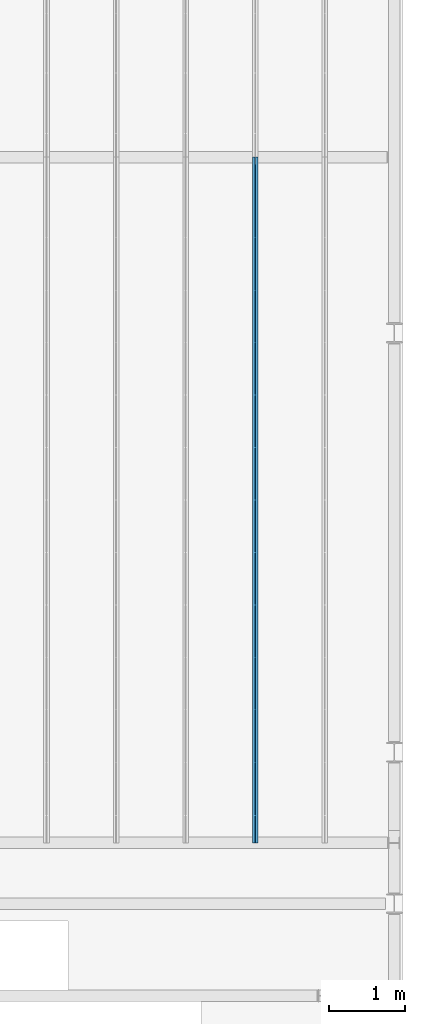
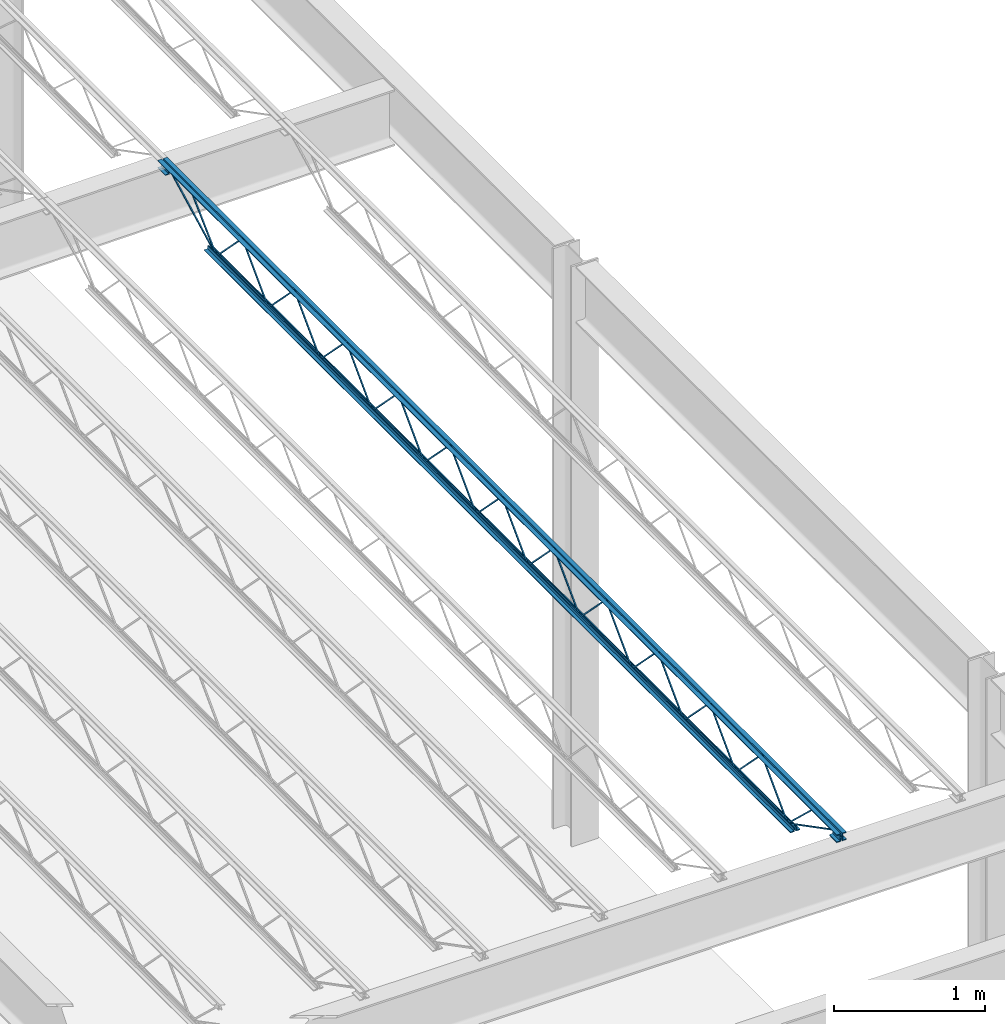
# One storey, part 73 of 119: 1 beam.
"""IFC2X3 building model written with IfcOpenShell, lengths in metres."""

from ifc_helpers import new_model, entity, si_unit, converted_unit, frame, origin, place, context, project, spatial, face_set, surface_model, element, save


model = new_model("IFC2X3")

# Units and contexts
model_context = context("Model", 3, precision=1e-09, world=origin())
plan_context = context("Plan", 3, precision=1e-09, world=origin())
ifc_project = project(units=[si_unit("LENGTHUNIT", "METRE"), si_unit("AREAUNIT", "SQUARE_METRE"), si_unit("VOLUMEUNIT", "CUBIC_METRE"), converted_unit("PLANEANGLEUNIT", "DEGREE", entity("IfcRatioMeasure", 0.01745329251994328), si_unit("PLANEANGLEUNIT", "RADIAN"), dimensions=[0, 0, 0, 0, 0, 0, 0]), si_unit("TIMEUNIT", "SECOND")], contexts=[model_context, plan_context])

# Site, building, storey
site_placement = place(None, origin())
site = spatial("IfcSite", under=ifc_project, at=site_placement, Name="Default", CompositionType="ELEMENT")
building_placement = place(site_placement, origin())
building = spatial("IfcBuilding", under=site, at=building_placement, CompositionType="ELEMENT")
storey_placement = place(building_placement, frame((0.0, 0.0, 4.570000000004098)))
storey = spatial("IfcBuildingStorey", under=building, at=storey_placement, Name="Second Floor", CompositionType="ELEMENT", Elevation=4.570000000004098)

# Beam
beam_placement = place(storey_placement, frame((-1.856750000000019, 35.80499999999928, 4.323999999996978)))
element("IfcBeam", 1, at=beam_placement, inside=storey, Name="M_K-Series Bar Joist-Rod Web:14K1:14K1", ObjectType="M_K-Series Bar Joist-Rod Web:14K1", context=model_context, shape_type="SurfaceModel", body=[
    surface_model("IfcFaceBasedSurfaceModel", [(0.04150000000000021, 6.89009090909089, 0.01110000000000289), (0.0320000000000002, 6.89009090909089, 0.01110000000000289), (0.0320000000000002, 6.89009090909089, 0.001600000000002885), (0.04150000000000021, 6.89009090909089, 0.001600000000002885), (0.0320000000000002, 6.891272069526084, 0.01110000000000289), (0.04150000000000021, 6.891272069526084, 0.01110000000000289), (0.0320000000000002, 6.895259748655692, 0.001600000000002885), (0.03200000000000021, 7.232137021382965, 0.3449000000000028), (0.03200000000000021, 7.234499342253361, 0.3449000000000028), (0.03200000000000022, 7.57137661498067, 0.001600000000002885), (0.03200000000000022, 7.576545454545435, 0.001600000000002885), (0.03200000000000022, 7.576545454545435, 0.01110000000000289), (0.03200000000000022, 7.575364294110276, 0.01110000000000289), (0.0320000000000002, 7.238487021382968, 0.3544000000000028), (0.03200000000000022, 7.228149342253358, 0.3544000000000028), (0.0415000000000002, 6.895259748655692, 0.001600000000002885), (0.04150000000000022, 7.232137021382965, 0.3449000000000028), (0.04150000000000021, 7.234499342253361, 0.3449000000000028), (0.04149999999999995, 7.57137661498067, 0.001600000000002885), (0.04149999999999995, 7.576545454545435, 0.001600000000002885), (0.04150000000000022, 7.576545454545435, 0.01110000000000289), (0.04150000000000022, 7.575364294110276, 0.01110000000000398), (0.04150000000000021, 7.238487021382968, 0.3544000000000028), (0.04150000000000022, 7.228149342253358, 0.3544000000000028), (0.0415000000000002, 6.203636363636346, 0.01110000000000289), (0.0320000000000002, 6.203636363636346, 0.01110000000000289), (0.0320000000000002, 6.203636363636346, 0.001600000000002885), (0.0415000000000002, 6.203636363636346, 0.001600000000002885), (0.0320000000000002, 6.20481752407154, 0.01110000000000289), (0.0415000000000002, 6.20481752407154, 0.01110000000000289), (0.0320000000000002, 6.208805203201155, 0.001600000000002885), (0.0320000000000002, 6.545682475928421, 0.3449000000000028), (0.0320000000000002, 6.548044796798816, 0.3449000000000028), (0.03200000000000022, 6.884922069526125, 0.001600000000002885), (0.03200000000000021, 6.888909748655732, 0.01110000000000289), (0.0320000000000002, 6.552032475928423, 0.3544000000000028), (0.03200000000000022, 6.541694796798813, 0.3544000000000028), (0.0415000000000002, 6.208805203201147, 0.001600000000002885), (0.04150000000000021, 6.545682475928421, 0.3449000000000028), (0.04150000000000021, 6.548044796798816, 0.3449000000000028), (0.04149999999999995, 6.884922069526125, 0.001600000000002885), (0.04149999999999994, 6.89009090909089, 0.001600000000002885), (0.04150000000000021, 6.888909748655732, 0.01110000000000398), (0.0415000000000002, 6.552032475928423, 0.3544000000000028), (0.04150000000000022, 6.541694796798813, 0.3544000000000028), (0.0415000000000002, 5.517181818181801, 0.01110000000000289), (0.0320000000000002, 5.517181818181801, 0.01110000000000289), (0.0320000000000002, 5.517181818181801, 0.001600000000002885), (0.0415000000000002, 5.517181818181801, 0.001600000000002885), (0.0320000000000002, 5.518362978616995, 0.01110000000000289), (0.0415000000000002, 5.518362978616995, 0.01110000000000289), (0.03200000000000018, 5.52235065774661, 0.001600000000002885), (0.0320000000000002, 5.859227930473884, 0.3449000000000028), (0.0320000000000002, 5.861590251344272, 0.3449000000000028), (0.03200000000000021, 6.198467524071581, 0.001600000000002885), (0.0320000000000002, 6.202455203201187, 0.01110000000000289), (0.03200000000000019, 5.865577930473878, 0.3544000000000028), (0.0320000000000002, 5.855240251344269, 0.3544000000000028), (0.0415000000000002, 5.522350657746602, 0.001600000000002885), (0.0415000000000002, 5.859227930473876, 0.3449000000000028), (0.0415000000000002, 5.861590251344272, 0.3449000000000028), (0.04149999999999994, 6.198467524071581, 0.001600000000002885), (0.04149999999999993, 6.203636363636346, 0.001600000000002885), (0.04150000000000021, 6.202455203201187, 0.01110000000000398), (0.0415000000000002, 5.865577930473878, 0.3544000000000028), (0.04150000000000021, 5.855240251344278, 0.3544000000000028), (0.0415000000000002, 4.830727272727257, 0.01110000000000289), (0.03200000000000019, 4.830727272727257, 0.01110000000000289), (0.03200000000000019, 4.830727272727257, 0.001600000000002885), (0.0415000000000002, 4.830727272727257, 0.001600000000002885), (0.03200000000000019, 4.831908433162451, 0.01110000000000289), (0.0415000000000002, 4.831908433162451, 0.01110000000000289), (0.03200000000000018, 4.835896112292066, 0.001600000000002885), (0.0320000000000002, 5.17277338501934, 0.3449000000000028), (0.03200000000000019, 5.175135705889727, 0.3449000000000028), (0.0320000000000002, 5.512012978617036, 0.001600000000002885), (0.0320000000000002, 5.51718181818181, 0.001600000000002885), (0.0320000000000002, 5.516000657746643, 0.01110000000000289), (0.03200000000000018, 5.179123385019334, 0.3544000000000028), (0.0320000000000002, 5.168785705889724, 0.3544000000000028), (0.04150000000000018, 4.835896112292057, 0.001600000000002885), (0.0415000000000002, 5.172773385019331, 0.3449000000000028), (0.0415000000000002, 5.175135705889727, 0.3449000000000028), (0.04149999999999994, 5.512012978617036, 0.001600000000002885), (0.04149999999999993, 5.517181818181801, 0.001600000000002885), (0.0415000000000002, 5.51718181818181, 0.01110000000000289), (0.0415000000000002, 5.516000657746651, 0.01110000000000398), (0.04150000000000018, 5.179123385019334, 0.3544000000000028), (0.0415000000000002, 5.168785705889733, 0.3544000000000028), (0.04150000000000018, 4.144272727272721, 0.01110000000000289), (0.03200000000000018, 4.144272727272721, 0.01110000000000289), (0.03200000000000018, 4.144272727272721, 0.001600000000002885), (0.04150000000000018, 4.144272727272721, 0.001600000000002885), (0.03200000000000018, 4.145453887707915, 0.01110000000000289), (0.04150000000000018, 4.145453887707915, 0.01110000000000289), (0.03200000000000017, 4.149441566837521, 0.001600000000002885), (0.03200000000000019, 4.486318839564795, 0.3449000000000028), (0.03200000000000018, 4.488681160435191, 0.3449000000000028), (0.0320000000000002, 4.8255584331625, 0.001600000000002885), (0.03200000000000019, 4.830727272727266, 0.001600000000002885), (0.03200000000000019, 4.830727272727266, 0.01110000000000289), (0.03200000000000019, 4.829546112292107, 0.01110000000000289), (0.03200000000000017, 4.492668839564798, 0.3544000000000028), (0.0320000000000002, 4.482331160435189, 0.3544000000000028), (0.04150000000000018, 4.149441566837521, 0.001600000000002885), (0.0415000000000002, 4.486318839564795, 0.3449000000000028), (0.04150000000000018, 4.488681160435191, 0.3449000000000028), (0.04149999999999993, 4.8255584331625, 0.001600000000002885), (0.04149999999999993, 4.830727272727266, 0.001600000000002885), (0.0415000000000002, 4.830727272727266, 0.01110000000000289), (0.0415000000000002, 4.829546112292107, 0.01110000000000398), (0.04150000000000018, 4.492668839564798, 0.3544000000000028), (0.0415000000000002, 4.482331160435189, 0.3544000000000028), (0.04150000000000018, 3.457818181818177, 0.01110000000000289), (0.03200000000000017, 3.457818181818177, 0.01110000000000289), (0.03200000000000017, 3.457818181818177, 0.001600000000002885), (0.04150000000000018, 3.457818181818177, 0.001600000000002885), (0.03200000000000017, 3.458999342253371, 0.01110000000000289), (0.04150000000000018, 3.458999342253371, 0.01110000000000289), (0.03200000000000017, 3.462987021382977, 0.001600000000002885), (0.03200000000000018, 3.799864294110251, 0.3449000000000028), (0.03200000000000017, 3.802226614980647, 0.3449000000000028), (0.03200000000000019, 4.139103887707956, 0.001600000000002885), (0.03200000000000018, 4.143091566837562, 0.01110000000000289), (0.03200000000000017, 3.806214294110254, 0.3544000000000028), (0.03200000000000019, 3.795876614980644, 0.3544000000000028), (0.04150000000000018, 3.462987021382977, 0.001600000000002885), (0.04150000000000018, 3.799864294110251, 0.3449000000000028), (0.04150000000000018, 3.802226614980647, 0.3449000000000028), (0.04149999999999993, 4.139103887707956, 0.001600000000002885), (0.04149999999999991, 4.144272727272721, 0.001600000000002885), (0.04150000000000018, 4.143091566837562, 0.01110000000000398), (0.04150000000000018, 3.806214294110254, 0.3544000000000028), (0.0415000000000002, 3.795876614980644, 0.3544000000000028), (0.04150000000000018, 2.771363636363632, 0.01110000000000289), (0.03200000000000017, 2.771363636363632, 0.01110000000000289), (0.03200000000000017, 2.771363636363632, 0.001600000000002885), (0.04150000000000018, 2.771363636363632, 0.001600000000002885), (0.03200000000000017, 2.77254479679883, 0.01110000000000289), (0.04150000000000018, 2.77254479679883, 0.01110000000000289), (0.03200000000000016, 2.776532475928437, 0.001600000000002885), (0.03200000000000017, 3.113409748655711, 0.3449000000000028), (0.03200000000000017, 3.115772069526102, 0.3449000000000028), (0.03200000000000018, 3.452649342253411, 0.001600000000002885), (0.03200000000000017, 3.456637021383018, 0.01110000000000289), (0.03200000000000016, 3.119759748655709, 0.3544000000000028), (0.03200000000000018, 3.1094220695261, 0.3544000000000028), (0.04150000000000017, 2.776532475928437, 0.001600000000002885), (0.04150000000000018, 3.113409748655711, 0.3449000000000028), (0.04150000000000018, 3.115772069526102, 0.3449000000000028), (0.04149999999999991, 3.452649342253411, 0.001600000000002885), (0.04149999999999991, 3.457818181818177, 0.001600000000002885), (0.04150000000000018, 3.456637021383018, 0.01110000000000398), (0.04150000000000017, 3.119759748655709, 0.3544000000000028), (0.04150000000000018, 3.1094220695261, 0.3544000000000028), (0.04150000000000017, 2.084909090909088, 0.01110000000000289), (0.03200000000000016, 2.084909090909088, 0.01110000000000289), (0.03200000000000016, 2.084909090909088, 0.001600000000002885), (0.04150000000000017, 2.084909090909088, 0.001600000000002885), (0.03200000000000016, 2.086090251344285, 0.01110000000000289), (0.04150000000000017, 2.086090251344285, 0.01110000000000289), (0.03200000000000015, 2.090077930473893, 0.001600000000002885), (0.03200000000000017, 2.426955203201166, 0.3449000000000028), (0.03200000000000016, 2.429317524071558, 0.3449000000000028), (0.03200000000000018, 2.766194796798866, 0.001600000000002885), (0.03200000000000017, 2.770182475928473, 0.01110000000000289), (0.03200000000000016, 2.433305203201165, 0.3544000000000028), (0.03200000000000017, 2.422967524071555, 0.3544000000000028), (0.04150000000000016, 2.090077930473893, 0.001600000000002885), (0.04150000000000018, 2.426955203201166, 0.3449000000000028), (0.04150000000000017, 2.429317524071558, 0.3449000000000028), (0.04149999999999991, 2.766194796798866, 0.001600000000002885), (0.04149999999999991, 2.771363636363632, 0.001600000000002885), (0.04150000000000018, 2.770182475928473, 0.01110000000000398), (0.04150000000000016, 2.433305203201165, 0.3544000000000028), (0.04150000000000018, 2.422967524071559, 0.3544000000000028), (0.04150000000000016, 1.398454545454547, 0.01110000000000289), (0.03200000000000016, 1.398454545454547, 0.01110000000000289), (0.03200000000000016, 1.398454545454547, 0.001600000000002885), (0.04150000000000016, 1.398454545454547, 0.001600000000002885), (0.03200000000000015, 1.399635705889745, 0.01110000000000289), (0.04150000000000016, 1.399635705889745, 0.01110000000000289), (0.03200000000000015, 1.403623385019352, 0.001600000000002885), (0.03200000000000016, 1.740500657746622, 0.3449000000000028), (0.03200000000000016, 1.742862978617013, 0.3449000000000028), (0.03200000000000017, 2.079740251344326, 0.001600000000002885), (0.03200000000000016, 2.084909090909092, 0.001600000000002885), (0.03200000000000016, 2.084909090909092, 0.01110000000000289), (0.03200000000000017, 2.083727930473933, 0.01110000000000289), (0.03200000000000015, 1.746850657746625, 0.3544000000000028), (0.03200000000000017, 1.736512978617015, 0.3544000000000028), (0.04150000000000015, 1.403623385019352, 0.001600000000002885), (0.04150000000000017, 1.740500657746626, 0.3449000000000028), (0.04150000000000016, 1.742862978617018, 0.3449000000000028), (0.04149999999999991, 2.079740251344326, 0.001600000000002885), (0.0414999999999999, 2.084909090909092, 0.001600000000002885), (0.04150000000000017, 2.084909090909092, 0.01110000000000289), (0.04150000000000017, 2.083727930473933, 0.01110000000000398), (0.04150000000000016, 1.746850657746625, 0.3544000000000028), (0.04150000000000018, 1.736512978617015, 0.3544000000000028), (0.04150000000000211, 7.576545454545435, 0.01109999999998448), (0.03200000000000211, 7.576545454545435, 0.01109999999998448), (0.03200000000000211, 7.576545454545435, 0.001599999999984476), (0.04150000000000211, 7.576545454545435, 0.001599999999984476), (0.0320000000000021, 7.577726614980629, 0.01109999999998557), (0.04150000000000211, 7.577726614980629, 0.01109999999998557), (0.0320000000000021, 7.581714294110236, 0.001599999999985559), (0.03200000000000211, 7.91859156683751, 0.3448999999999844), (0.03200000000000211, 7.920953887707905, 0.3448999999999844), (0.03200000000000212, 8.257831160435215, 0.001599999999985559), (0.03200000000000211, 8.26299999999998, 0.001599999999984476), (0.03200000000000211, 8.26299999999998, 0.01109999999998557), (0.03200000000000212, 8.261818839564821, 0.01109999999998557), (0.0320000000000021, 7.924941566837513, 0.3543999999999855), (0.03200000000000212, 7.914603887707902, 0.3543999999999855), (0.04150000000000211, 7.581714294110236, 0.001599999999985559), (0.04150000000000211, 7.91859156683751, 0.3448999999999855), (0.04150000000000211, 7.920953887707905, 0.3448999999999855), (0.04150000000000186, 8.257831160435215, 0.001599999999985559), (0.04150000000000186, 8.26299999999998, 0.001599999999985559), (0.04150000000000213, 8.26299999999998, 0.01109999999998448), (0.04150000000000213, 8.261818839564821, 0.01109999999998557), (0.04150000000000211, 7.924941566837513, 0.3543999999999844), (0.04150000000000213, 7.914603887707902, 0.3543999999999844), (0.04150000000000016, 0.7120000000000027, 0.01110000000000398), (0.03200000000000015, 0.7120000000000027, 0.01110000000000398), (0.03200000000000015, 0.7120000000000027, 0.001600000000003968), (0.04150000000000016, 0.7120000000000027, 0.001600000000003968), (0.03200000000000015, 0.7131811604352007, 0.01110000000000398), (0.04150000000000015, 0.7131811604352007, 0.01110000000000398), (0.03200000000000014, 0.7171688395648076, 0.001600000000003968), (0.03200000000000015, 1.054046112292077, 0.3449000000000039), (0.03200000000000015, 1.056408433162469, 0.3449000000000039), (0.03200000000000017, 1.393285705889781, 0.001600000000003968), (0.03200000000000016, 1.398454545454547, 0.001600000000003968), (0.03200000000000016, 1.398454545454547, 0.01110000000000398), (0.03200000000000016, 1.397273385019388, 0.01110000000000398), (0.03200000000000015, 1.06039611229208, 0.3544000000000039), (0.03200000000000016, 1.05005843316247, 0.3544000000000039), (0.04150000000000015, 0.7171688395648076, 0.001600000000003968), (0.04150000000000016, 1.054046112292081, 0.3449000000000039), (0.04150000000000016, 1.056408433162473, 0.3449000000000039), (0.0414999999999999, 1.393285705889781, 0.001600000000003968), (0.04149999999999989, 1.398454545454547, 0.001600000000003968), (0.04150000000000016, 1.398454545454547, 0.01110000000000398), (0.04150000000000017, 1.397273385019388, 0.01110000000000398), (0.04150000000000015, 1.06039611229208, 0.3544000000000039), (0.04150000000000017, 1.05005843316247, 0.3544000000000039), (0.03200000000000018, 8.975, 0.3559999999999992), (0.0, 8.975, 0.3559999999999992), (0.0, 8.975, 0.3494999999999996), (0.02550000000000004, 8.975, 0.3494999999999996), (0.02550000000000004, 8.975, 0.3239999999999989), (0.03200000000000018, 8.975, 0.3239999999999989), (0.04149999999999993, 8.975, 0.3559999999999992), (0.04149999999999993, 8.975, 0.3239999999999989), (0.0479999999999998, 8.975, 0.3239999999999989), (0.0479999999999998, 8.975, 0.3494999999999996), (0.07350000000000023, 8.975, 0.3494999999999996), (0.07350000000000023, 8.975, 0.3559999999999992), (0.03200000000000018, 0.0, 0.3559999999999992), (0.0, 0.0, 0.3559999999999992), (0.0, 0.0, 0.3494999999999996), (0.02550000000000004, 0.0, 0.3494999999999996), (0.02550000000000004, 0.0, 0.3239999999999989), (0.03200000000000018, 0.0, 0.3239999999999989), (0.04149999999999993, 0.0, 0.3559999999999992), (0.04149999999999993, 0.0, 0.3239999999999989), (0.0479999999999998, 0.0, 0.3239999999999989), (0.0479999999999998, 0.0, 0.3494999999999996), (0.07350000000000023, 0.0, 0.3494999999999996), (0.07350000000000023, 0.0, 0.3559999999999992), (0.04150000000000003, 0.0999999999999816, 0.2924999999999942), (0.07350000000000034, 0.0999999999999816, 0.2924999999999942), (0.07350000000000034, 0.0999999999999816, 0.2989999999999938), (0.04799999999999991, 0.0999999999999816, 0.2989999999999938), (0.04799999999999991, 0.0999999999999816, 0.3239999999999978), (0.04150000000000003, 0.0999999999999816, 0.3239999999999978), (0.0, 0.0999999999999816, 0.2924999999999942), (0.03200000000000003, 0.0999999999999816, 0.2924999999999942), (0.03200000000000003, 0.0999999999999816, 0.3239999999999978), (0.02550000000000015, 0.0999999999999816, 0.3239999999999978), (0.02550000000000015, 0.0999999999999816, 0.2989999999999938), (0.0, 0.0999999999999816, 0.2989999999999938), (0.04149999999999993, 0.0, 0.2924999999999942), (0.07350000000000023, 0.0, 0.2924999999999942), (0.07350000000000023, 0.0, 0.2989999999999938), (0.0479999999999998, 0.0, 0.2989999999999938), (0.0479999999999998, 0.0, 0.3239999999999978), (0.04149999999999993, 0.0, 0.3239999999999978), (0.0, 0.0, 0.2924999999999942), (0.03199999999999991, 0.0, 0.2924999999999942), (0.03199999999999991, 0.0, 0.3239999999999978), (0.02550000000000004, 0.0, 0.3239999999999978), (0.02550000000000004, 0.0, 0.2989999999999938), (0.0, 0.0, 0.2989999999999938), (0.03199999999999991, 8.975, 0.2924999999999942), (0.03199999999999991, 8.975, 0.3239999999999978), (0.02550000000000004, 8.975, 0.3239999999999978), (0.02550000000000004, 8.975, 0.2989999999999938), (0.0, 8.975, 0.2989999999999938), (0.0, 8.975, 0.2924999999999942), (0.04149999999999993, 8.975, 0.2924999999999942), (0.07350000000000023, 8.975, 0.2924999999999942), (0.07350000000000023, 8.975, 0.2989999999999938), (0.0479999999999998, 8.975, 0.2989999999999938), (0.0479999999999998, 8.975, 0.3239999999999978), (0.04149999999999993, 8.975, 0.3239999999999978), (0.0319999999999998, 8.874999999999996, 0.2924999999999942), (0.0319999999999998, 8.874999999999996, 0.3239999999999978), (0.02549999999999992, 8.874999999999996, 0.3239999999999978), (0.02549999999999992, 8.874999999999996, 0.2989999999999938), (0.0, 8.874999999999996, 0.2989999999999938), (0.0, 8.874999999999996, 0.2924999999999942), (0.0414999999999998, 8.874999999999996, 0.2924999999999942), (0.0735000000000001, 8.874999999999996, 0.2924999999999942), (0.0735000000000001, 8.874999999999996, 0.2989999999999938), (0.04799999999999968, 8.874999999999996, 0.2989999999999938), (0.04799999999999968, 8.874999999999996, 0.3239999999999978), (0.0414999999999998, 8.874999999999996, 0.3239999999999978), (0.03199999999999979, 8.363000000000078, 0.0), (0.03199999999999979, 8.363000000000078, 0.03199999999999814), (0.02549999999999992, 8.363000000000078, 0.03199999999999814), (0.02549999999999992, 8.363000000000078, 0.006499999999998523), (0.0, 8.363000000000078, 0.006499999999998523), (0.0, 8.363000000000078, 0.0), (0.04149999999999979, 8.363000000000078, 0.0), (0.0735000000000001, 8.363000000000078, 0.0), (0.0735000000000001, 8.363000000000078, 0.006499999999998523), (0.04799999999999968, 8.363000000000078, 0.006499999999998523), (0.04799999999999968, 8.363000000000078, 0.03199999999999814), (0.04149999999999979, 8.363000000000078, 0.03199999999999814), (0.03200000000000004, 0.6120000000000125, 0.0), (0.03200000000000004, 0.6120000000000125, 0.03199999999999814), (0.02550000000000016, 0.6120000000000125, 0.03199999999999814), (0.02550000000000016, 0.6120000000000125, 0.006499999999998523), (0.0, 0.6120000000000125, 0.006499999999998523), (0.0, 0.6120000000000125, 0.0), (0.04150000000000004, 0.6120000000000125, 0.0), (0.07350000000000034, 0.6120000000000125, 0.0), (0.07350000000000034, 0.6120000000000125, 0.006499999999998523), (0.04799999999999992, 0.6120000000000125, 0.006499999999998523), (0.04799999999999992, 0.6120000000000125, 0.03199999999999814), (0.04150000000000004, 0.6120000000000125, 0.03199999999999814), (0.04150000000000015, 0.7141882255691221, 0.01056594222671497), (0.03200000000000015, 0.7141882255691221, 0.01056594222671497), (0.03200000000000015, 0.7098117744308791, 0.002134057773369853), (0.04150000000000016, 0.7098117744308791, 0.002134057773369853), (0.04150000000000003, 0.101159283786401, 0.3287499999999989), (0.0415000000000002, 0.0, 0.3287499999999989), (0.0415000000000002, 0.0, 0.3192499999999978), (0.0415000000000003, 0.09884071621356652, 0.3192499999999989), (0.0320000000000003, 0.09884071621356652, 0.3192499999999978), (0.0320000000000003, 0.101159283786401, 0.3287499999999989), (0.03200000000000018, 0.0, 0.3287499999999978), (0.03200000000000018, 0.0, 0.3192499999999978), (0.04150000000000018, 0.3488155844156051, 0.3417000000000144), (0.03200000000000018, 0.3488155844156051, 0.3417000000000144), (0.03200000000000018, 0.3488155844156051, 0.3322000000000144), (0.04150000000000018, 0.3488155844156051, 0.3322000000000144), (0.03200000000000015, 0.3634023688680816, 0.3417000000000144), (0.04150000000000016, 0.3634023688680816, 0.3417000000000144), (0.03200000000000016, 0.3596287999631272, 0.3322000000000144), (0.03200000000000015, 0.7087406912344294, 0.002894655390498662), (0.03200000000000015, 0.7152593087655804, 0.009805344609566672), (0.04150000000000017, 0.3596287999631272, 0.3322000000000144), (0.04150000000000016, 0.7087406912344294, 0.002894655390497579), (0.04150000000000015, 0.7152593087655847, 0.009805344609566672), (0.04150000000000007, 8.877188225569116, 0.3197840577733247), (0.04150000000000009, 8.872811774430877, 0.3282159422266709), (0.03200000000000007, 8.872811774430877, 0.3282159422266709), (0.03200000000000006, 8.877188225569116, 0.3197840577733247), (0.04150000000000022, 8.26518822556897, 0.002134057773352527), (0.04150000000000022, 8.260811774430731, 0.01056594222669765), (0.03200000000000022, 8.260811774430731, 0.01056594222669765), (0.03200000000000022, 8.26518822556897, 0.002134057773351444), (0.0415000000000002, 8.624030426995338, 0.346222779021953), (0.04150000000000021, 8.617452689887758, 0.3530772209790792), (0.0320000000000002, 8.617452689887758, 0.3530772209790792), (0.0320000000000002, 8.624030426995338, 0.346222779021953), (0.04150000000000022, 8.26628886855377, 0.002922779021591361), (0.04150000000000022, 8.25971113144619, 0.009777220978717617), (0.03200000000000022, 8.25971113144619, 0.009777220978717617), (0.03200000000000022, 8.26628886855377, 0.002922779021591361)], [face_set([[[0, 1, 2, 3]], [[1, 4, 5, 0]], [[2, 6, 7, 8, 9, 10, 11, 12, 13, 14, 4, 1]], [[3, 2, 6, 15]], [[0, 3, 15, 16, 17, 18, 19, 20, 21, 22, 23, 5]], [[4, 5, 23, 14]], [[15, 16, 7, 6]], [[14, 13, 22, 23]], [[16, 7, 8, 17]], [[13, 12, 21, 22]], [[17, 8, 9, 18]], [[20, 11, 10, 19]], [[12, 11, 20, 21]], [[18, 9, 10, 19]]]), face_set([[[24, 25, 26, 27]], [[25, 28, 29, 24]], [[26, 30, 31, 32, 33, 2, 1, 34, 35, 36, 28, 25]], [[27, 26, 30, 37]], [[24, 27, 37, 38, 39, 40, 41, 0, 42, 43, 44, 29]], [[28, 29, 44, 36]], [[37, 38, 31, 30]], [[36, 35, 43, 44]], [[38, 31, 32, 39]], [[35, 34, 42, 43]], [[39, 32, 33, 40]], [[0, 1, 2, 41]], [[34, 1, 0, 42]], [[40, 33, 2, 41]]]), face_set([[[45, 46, 47, 48]], [[46, 49, 50, 45]], [[47, 51, 52, 53, 54, 26, 25, 55, 56, 57, 49, 46]], [[48, 47, 51, 58]], [[45, 48, 58, 59, 60, 61, 62, 24, 63, 64, 65, 50]], [[49, 50, 65, 57]], [[58, 59, 52, 51]], [[57, 56, 64, 65]], [[59, 52, 53, 60]], [[56, 55, 63, 64]], [[60, 53, 54, 61]], [[24, 25, 26, 62]], [[55, 25, 24, 63]], [[61, 54, 26, 62]]]), face_set([[[66, 67, 68, 69]], [[67, 70, 71, 66]], [[68, 72, 73, 74, 75, 76, 46, 77, 78, 79, 70, 67]], [[69, 68, 72, 80]], [[66, 69, 80, 81, 82, 83, 84, 85, 86, 87, 88, 71]], [[70, 71, 88, 79]], [[80, 81, 73, 72]], [[79, 78, 87, 88]], [[81, 73, 74, 82]], [[78, 77, 86, 87]], [[82, 74, 75, 83]], [[85, 46, 76, 84]], [[77, 46, 85, 86]], [[83, 75, 76, 84]]]), face_set([[[89, 90, 91, 92]], [[90, 93, 94, 89]], [[91, 95, 96, 97, 98, 99, 100, 101, 102, 103, 93, 90]], [[92, 91, 95, 104]], [[89, 92, 104, 105, 106, 107, 108, 109, 110, 111, 112, 94]], [[93, 94, 112, 103]], [[104, 105, 96, 95]], [[103, 102, 111, 112]], [[105, 96, 97, 106]], [[102, 101, 110, 111]], [[106, 97, 98, 107]], [[109, 100, 99, 108]], [[101, 100, 109, 110]], [[107, 98, 99, 108]]]), face_set([[[113, 114, 115, 116]], [[114, 117, 118, 113]], [[115, 119, 120, 121, 122, 91, 90, 123, 124, 125, 117, 114]], [[116, 115, 119, 126]], [[113, 116, 126, 127, 128, 129, 130, 89, 131, 132, 133, 118]], [[117, 118, 133, 125]], [[126, 127, 120, 119]], [[125, 124, 132, 133]], [[127, 120, 121, 128]], [[124, 123, 131, 132]], [[128, 121, 122, 129]], [[89, 90, 91, 130]], [[123, 90, 89, 131]], [[129, 122, 91, 130]]]), face_set([[[134, 135, 136, 137]], [[135, 138, 139, 134]], [[136, 140, 141, 142, 143, 115, 114, 144, 145, 146, 138, 135]], [[137, 136, 140, 147]], [[134, 137, 147, 148, 149, 150, 151, 113, 152, 153, 154, 139]], [[138, 139, 154, 146]], [[147, 148, 141, 140]], [[146, 145, 153, 154]], [[148, 141, 142, 149]], [[145, 144, 152, 153]], [[149, 142, 143, 150]], [[113, 114, 115, 151]], [[144, 114, 113, 152]], [[150, 143, 115, 151]]]), face_set([[[155, 156, 157, 158]], [[156, 159, 160, 155]], [[157, 161, 162, 163, 164, 136, 135, 165, 166, 167, 159, 156]], [[158, 157, 161, 168]], [[155, 158, 168, 169, 170, 171, 172, 134, 173, 174, 175, 160]], [[159, 160, 175, 167]], [[168, 169, 162, 161]], [[167, 166, 174, 175]], [[169, 162, 163, 170]], [[166, 165, 173, 174]], [[170, 163, 164, 171]], [[134, 135, 136, 172]], [[165, 135, 134, 173]], [[171, 164, 136, 172]]]), face_set([[[176, 177, 178, 179]], [[177, 180, 181, 176]], [[178, 182, 183, 184, 185, 186, 187, 188, 189, 190, 180, 177]], [[179, 178, 182, 191]], [[176, 179, 191, 192, 193, 194, 195, 196, 197, 198, 199, 181]], [[180, 181, 199, 190]], [[191, 192, 183, 182]], [[190, 189, 198, 199]], [[192, 183, 184, 193]], [[189, 188, 197, 198]], [[193, 184, 185, 194]], [[196, 187, 186, 195]], [[188, 187, 196, 197]], [[194, 185, 186, 195]]]), face_set([[[200, 201, 202, 203]], [[201, 204, 205, 200]], [[202, 206, 207, 208, 209, 210, 211, 212, 213, 214, 204, 201]], [[203, 202, 206, 215]], [[200, 203, 215, 216, 217, 218, 219, 220, 221, 222, 223, 205]], [[204, 205, 223, 214]], [[215, 216, 207, 206]], [[214, 213, 222, 223]], [[216, 207, 208, 217]], [[213, 212, 221, 222]], [[217, 208, 209, 218]], [[220, 211, 210, 219]], [[212, 211, 220, 221]], [[218, 209, 210, 219]]]), face_set([[[224, 225, 226, 227]], [[225, 228, 229, 224]], [[226, 230, 231, 232, 233, 234, 235, 236, 237, 238, 228, 225]], [[227, 226, 230, 239]], [[224, 227, 239, 240, 241, 242, 243, 244, 245, 246, 247, 229]], [[228, 229, 247, 238]], [[239, 240, 231, 230]], [[238, 237, 246, 247]], [[240, 231, 232, 241]], [[237, 236, 245, 246]], [[241, 232, 233, 242]], [[244, 235, 234, 243]], [[236, 235, 244, 245]], [[242, 233, 234, 243]]]), face_set([[[248, 249, 250, 251, 252, 253]], [[254, 255, 256, 257, 258, 259]], [[260, 261, 262, 263, 264, 265]], [[266, 267, 268, 269, 270, 271]], [[253, 248, 260, 265]], [[252, 253, 265, 264]], [[251, 263, 264, 252]], [[250, 251, 263, 262]], [[249, 261, 262, 250]], [[248, 260, 261, 249]], [[259, 271, 266, 254]], [[258, 259, 271, 270]], [[257, 258, 270, 269]], [[256, 257, 269, 268]], [[255, 256, 268, 267]], [[254, 266, 267, 255]]]), face_set([[[272, 273, 274, 275, 276, 277]], [[278, 279, 280, 281, 282, 283]], [[284, 285, 286, 287, 288, 289]], [[290, 291, 292, 293, 294, 295]], [[277, 289, 284, 272]], [[276, 288, 289, 277]], [[275, 276, 288, 287]], [[274, 286, 287, 275]], [[273, 274, 286, 285]], [[272, 273, 285, 284]], [[283, 295, 290, 278]], [[282, 294, 295, 283]], [[281, 293, 294, 282]], [[280, 292, 293, 281]], [[279, 280, 292, 291]], [[278, 279, 291, 290]]]), face_set([[[296, 297, 298, 299, 300, 301]], [[302, 303, 304, 305, 306, 307]], [[308, 309, 310, 311, 312, 313]], [[314, 315, 316, 317, 318, 319]], [[301, 296, 308, 313]], [[300, 312, 313, 301]], [[299, 311, 312, 300]], [[298, 310, 311, 299]], [[297, 309, 310, 298]], [[296, 297, 309, 308]], [[307, 319, 314, 302]], [[306, 318, 319, 307]], [[305, 306, 318, 317]], [[304, 316, 317, 305]], [[303, 304, 316, 315]], [[302, 303, 315, 314]]]), face_set([[[320, 321, 322, 323, 324, 325]], [[326, 327, 328, 329, 330, 331]], [[332, 333, 334, 335, 336, 337]], [[338, 339, 340, 341, 342, 343]], [[325, 320, 332, 337]], [[324, 336, 337, 325]], [[323, 335, 336, 324]], [[322, 334, 335, 323]], [[321, 333, 334, 322]], [[320, 321, 333, 332]], [[331, 343, 338, 326]], [[330, 342, 343, 331]], [[329, 330, 342, 341]], [[328, 340, 341, 329]], [[327, 328, 340, 339]], [[326, 327, 339, 338]]]), face_set([[[344, 345, 346, 347]], [[347, 344, 348, 349, 350, 351]], [[346, 347, 351, 352]], [[345, 353, 354, 355, 352, 346]], [[344, 348, 353, 345]], [[349, 354, 355, 350]], [[352, 351, 350, 355]], [[348, 349, 354, 353]]]), face_set([[[356, 357, 358, 359]], [[357, 360, 361, 356]], [[358, 362, 363, 364, 360, 357]], [[359, 358, 362, 365]], [[356, 359, 365, 366, 367, 361]], [[367, 364, 363, 366]], [[360, 364, 367, 361]], [[365, 362, 363, 366]]]), face_set([[[368, 369, 370, 371]], [[372, 373, 374, 375]], [[371, 375, 372, 368]], [[370, 374, 375, 371]], [[369, 370, 374, 373]], [[368, 369, 373, 372]]]), face_set([[[376, 377, 378, 379]], [[380, 381, 382, 383]], [[379, 383, 380, 376]], [[378, 382, 383, 379]], [[377, 378, 382, 381]], [[376, 377, 381, 380]]])]),
])

save(model, "model.ifc")
